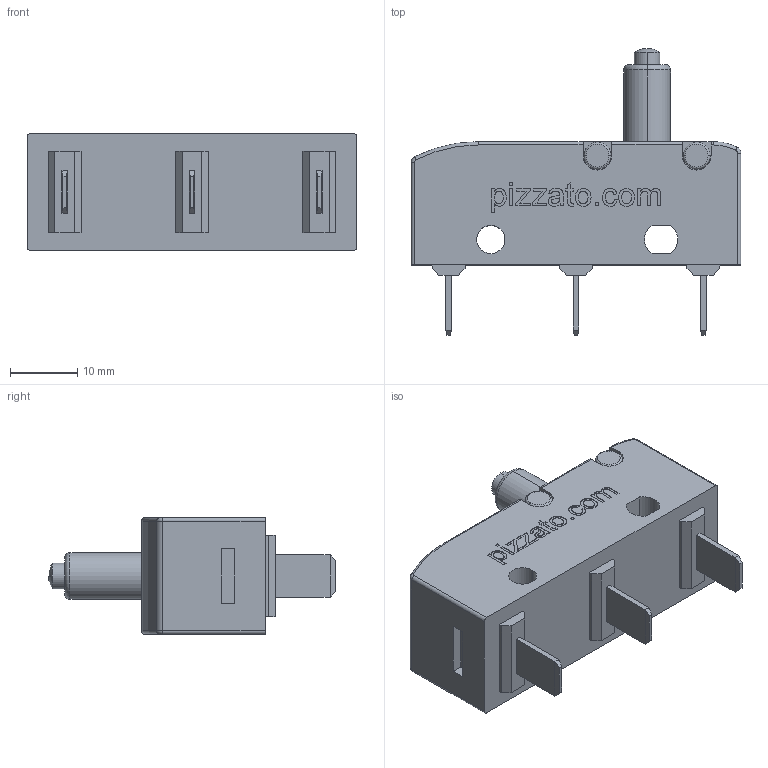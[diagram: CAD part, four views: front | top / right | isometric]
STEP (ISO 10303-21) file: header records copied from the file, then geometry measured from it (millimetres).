
FILE_DESCRIPTION (( 'STEP AP203' ), '1' );
FILE_NAME ('Pizzato_MK_HxxD04.STEP', '2009-02-13T15:53:03', ( 'mario' ), ( '' ), 'SwSTEP 2.0', 'SolidWorks 2009', '' );
FILE_SCHEMA (( 'CONFIG_CONTROL_DESIGN' ));
Length unit declared in the file: millimetre
Products named in the file (4): Pizzato_MK_HxxD04; Pizzato_Custodia_MK_MKH_01-05; Pizzato_Pulsante_MK03; Pizzato_Supporto MK04
Assembly tree (3 placements, depth 2):
  Pizzato_MK_HxxD04
    Pizzato_Custodia_MK_MKH_01-05
    Pizzato_Pulsante_MK03
    Pizzato_Supporto MK04
Bounding box: 49.2 x 42.8 x 17.4 mm (x, y, z)
Volume: 15721.3 mm3; surface area: 5760.6 mm2
Topology: 3 solids, 3 shells, 436 faces, 1122 edges, 737 vertices
Faces by surface type: plane 282, bspline 69, cylinder 65, torus 18, sphere 2
Entity records: 16920 total; most frequent: CARTESIAN_POINT 6194, ORIENTED_EDGE 2244, DIRECTION 1896, EDGE_CURVE 1122, VECTOR 818, LINE 818, VERTEX_POINT 737, AXIS2_PLACEMENT_3D 539
